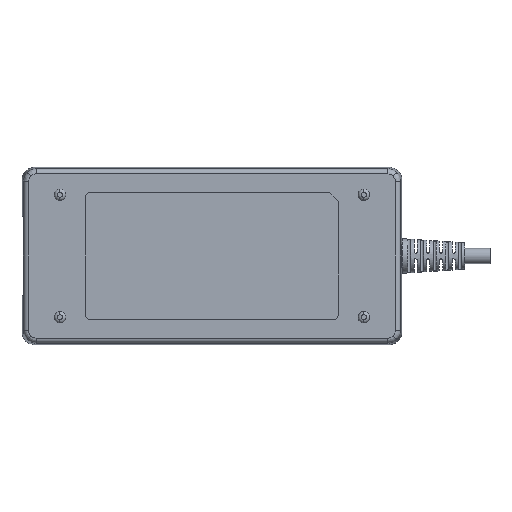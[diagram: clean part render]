
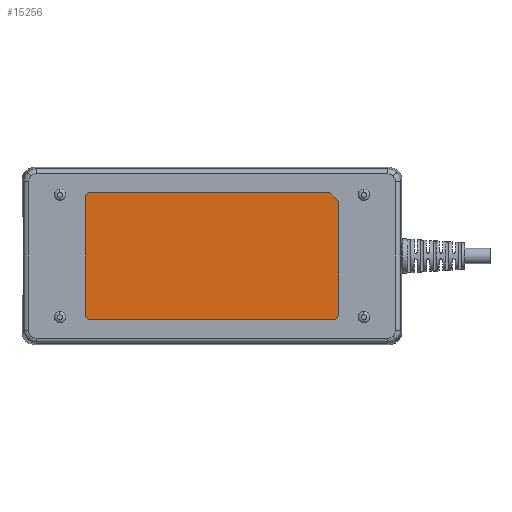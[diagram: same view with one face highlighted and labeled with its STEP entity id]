
A CAD part, front view. The second image highlights one B-rep face of the part: STEP entity #15256.
In plain terms, the highlighted planar face has unit normal (0, -1, 0).
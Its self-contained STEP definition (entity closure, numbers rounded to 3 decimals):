
#18 = LINE ( 'NONE', #5135, #11645 ) ;
#131 = CARTESIAN_POINT ( 'NONE',  ( 48., -18.75, -23. ) ) ;
#185 = LINE ( 'NONE', #4919, #5865 ) ;
#383 = VECTOR ( 'NONE', #10422, 1000. ) ;
#428 = VECTOR ( 'NONE', #7272, 1000. ) ;
#647 = DIRECTION ( 'NONE',  ( 0., -1., 0. ) ) ;
#709 = AXIS2_PLACEMENT_3D ( 'NONE', #131, #8495, #14482 ) ;
#1903 = CARTESIAN_POINT ( 'NONE',  ( -48., -18.75, -25. ) ) ;
#2053 = DIRECTION ( 'NONE',  ( 0., 1., 0. ) ) ;
#2058 = ORIENTED_EDGE ( 'NONE', *, *, #5998, .T. ) ;
#2361 = EDGE_CURVE ( 'NONE', #5662, #6651, #185, .T. ) ;
#2699 = EDGE_CURVE ( 'NONE', #5204, #9754, #15396, .T. ) ;
#3133 = EDGE_CURVE ( 'NONE', #4922, #5662, #13440, .T. ) ;
#3223 = AXIS2_PLACEMENT_3D ( 'NONE', #5106, #12369, #5182 ) ;
#3320 = PLANE ( 'NONE',  #15568 ) ;
#3572 = CARTESIAN_POINT ( 'NONE',  ( 50., -18.75, 21.5 ) ) ;
#4283 = ORIENTED_EDGE ( 'NONE', *, *, #6885, .T. ) ;
#4696 = CARTESIAN_POINT ( 'NONE',  ( 46.5, -18.75, 25. ) ) ;
#4717 = CARTESIAN_POINT ( 'NONE',  ( -50., -18.75, 23. ) ) ;
#4919 = CARTESIAN_POINT ( 'NONE',  ( 48., -18.75, -25. ) ) ;
#4922 = VERTEX_POINT ( 'NONE', #7462 ) ;
#5106 = CARTESIAN_POINT ( 'NONE',  ( -48., -18.75, 23. ) ) ;
#5135 = CARTESIAN_POINT ( 'NONE',  ( 46.5, -18.75, 25. ) ) ;
#5182 = DIRECTION ( 'NONE',  ( 0., 0., 1. ) ) ;
#5204 = VERTEX_POINT ( 'NONE', #4696 ) ;
#5598 = LINE ( 'NONE', #9232, #383 ) ;
#5662 = VERTEX_POINT ( 'NONE', #1903 ) ;
#5773 = DIRECTION ( 'NONE',  ( -0.707, 0., 0.707 ) ) ;
#5833 = LINE ( 'NONE', #4717, #6089 ) ;
#5865 = VECTOR ( 'NONE', #6926, 1000. ) ;
#5998 = EDGE_CURVE ( 'NONE', #7697, #13456, #5598, .T. ) ;
#6089 = VECTOR ( 'NONE', #8203, 1000. ) ;
#6593 = EDGE_CURVE ( 'NONE', #13456, #5204, #18, .T. ) ;
#6651 = VERTEX_POINT ( 'NONE', #10742 ) ;
#6885 = EDGE_CURVE ( 'NONE', #11948, #4922, #5833, .T. ) ;
#6926 = DIRECTION ( 'NONE',  ( 1., 0., 0. ) ) ;
#7272 = DIRECTION ( 'NONE',  ( -1., 0., 0. ) ) ;
#7462 = CARTESIAN_POINT ( 'NONE',  ( -50., -18.75, -23. ) ) ;
#7499 = CIRCLE ( 'NONE', #709, 2. ) ;
#7697 = VERTEX_POINT ( 'NONE', #11934 ) ;
#8163 = EDGE_CURVE ( 'NONE', #9754, #11948, #8761, .T. ) ;
#8203 = DIRECTION ( 'NONE',  ( 0., 0., -1. ) ) ;
#8495 = DIRECTION ( 'NONE',  ( 0., -1., 0. ) ) ;
#8761 = CIRCLE ( 'NONE', #3223, 2. ) ;
#9174 = AXIS2_PLACEMENT_3D ( 'NONE', #11469, #647, #13899 ) ;
#9232 = CARTESIAN_POINT ( 'NONE',  ( 50., -18.75, 21.5 ) ) ;
#9238 = DIRECTION ( 'NONE',  ( 0., 0., 1. ) ) ;
#9253 = ORIENTED_EDGE ( 'NONE', *, *, #14475, .T. ) ;
#9465 = FACE_OUTER_BOUND ( 'NONE', #15425, .T. ) ;
#9471 = ORIENTED_EDGE ( 'NONE', *, *, #2361, .T. ) ;
#9754 = VERTEX_POINT ( 'NONE', #14302 ) ;
#10314 = CARTESIAN_POINT ( 'NONE',  ( -50., -18.75, 23. ) ) ;
#10422 = DIRECTION ( 'NONE',  ( 0., 0., 1. ) ) ;
#10742 = CARTESIAN_POINT ( 'NONE',  ( 48., -18.75, -25. ) ) ;
#11174 = ORIENTED_EDGE ( 'NONE', *, *, #6593, .T. ) ;
#11469 = CARTESIAN_POINT ( 'NONE',  ( -48., -18.75, -23. ) ) ;
#11645 = VECTOR ( 'NONE', #5773, 1000. ) ;
#11691 = CARTESIAN_POINT ( 'NONE',  ( 48., -18.75, -23. ) ) ;
#11934 = CARTESIAN_POINT ( 'NONE',  ( 50., -18.75, -23. ) ) ;
#11948 = VERTEX_POINT ( 'NONE', #10314 ) ;
#12131 = ORIENTED_EDGE ( 'NONE', *, *, #3133, .T. ) ;
#12369 = DIRECTION ( 'NONE',  ( 0., -1., 0. ) ) ;
#12507 = ORIENTED_EDGE ( 'NONE', *, *, #8163, .T. ) ;
#13440 = CIRCLE ( 'NONE', #9174, 2. ) ;
#13456 = VERTEX_POINT ( 'NONE', #3572 ) ;
#13826 = ORIENTED_EDGE ( 'NONE', *, *, #2699, .T. ) ;
#13899 = DIRECTION ( 'NONE',  ( 0., 0., 1. ) ) ;
#14302 = CARTESIAN_POINT ( 'NONE',  ( -48., -18.75, 25. ) ) ;
#14449 = CARTESIAN_POINT ( 'NONE',  ( 46.5, -18.75, 25. ) ) ;
#14475 = EDGE_CURVE ( 'NONE', #6651, #7697, #7499, .T. ) ;
#14482 = DIRECTION ( 'NONE',  ( 0., 0., 1. ) ) ;
#15256 = ADVANCED_FACE ( 'NONE', ( #9465 ), #3320, .F. ) ;
#15396 = LINE ( 'NONE', #14449, #428 ) ;
#15425 = EDGE_LOOP ( 'NONE', ( #11174, #13826, #12507, #4283, #12131, #9471, #9253, #2058 ) ) ;
#15568 = AXIS2_PLACEMENT_3D ( 'NONE', #11691, #2053, #9238 ) ;
